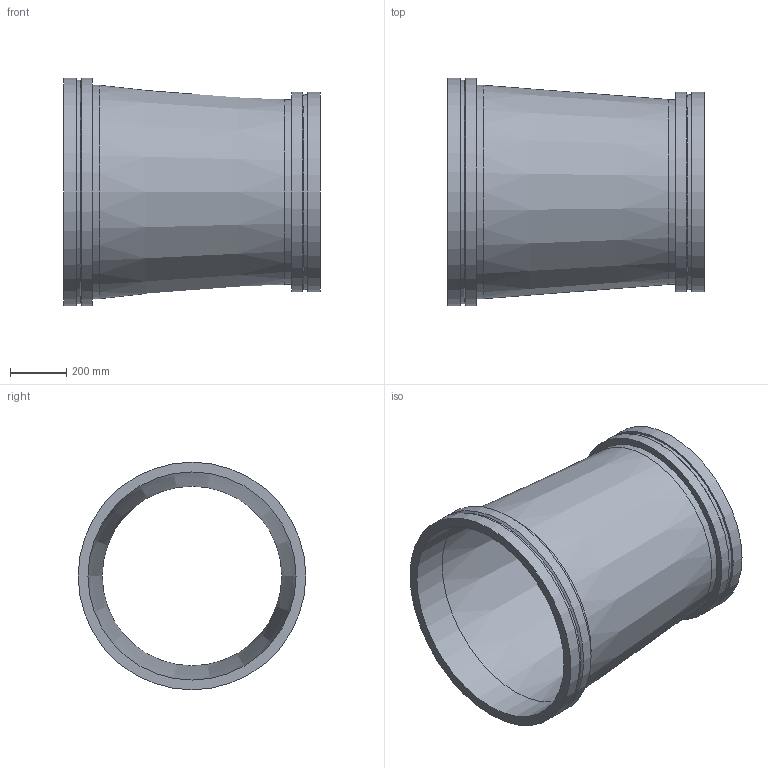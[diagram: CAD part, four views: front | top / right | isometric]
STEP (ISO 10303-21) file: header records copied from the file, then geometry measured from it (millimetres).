
FILE_DESCRIPTION(/* description */ ('VIC REDUCER CONCENTRIC No W50 VR','CAx-IF Rec.Pracs.---Representation and Presentation of Product Manufacturing Information (PMI)---4.0---2014-10-13'),/* implementation_level */ '2;1');
FILE_NAME(/* name */ 'C:\Users\kkamble\AppData\Roaming\Autodesk\ApplicationPlugins\Back Up\Victaulic_Vic-Ring_Reducer Concentric_No W50 VR (AGR)\Victaulic_Vic-Ring_Reducer Concentric_No W50 VR (AGR)_30.0x26.0 (750x650).stp',/* time_stamp */ '2020-09-10T11:46:33+05:00',/* author */ ('cps_temp'),/* organization */ ('Victaulic'),/* preprocessor_version */ 'ST-DEVELOPER v17.2',/* originating_system */ 'Autodesk Inventor 2019',/* authorisation */ '');
FILE_SCHEMA (('AP242_MANAGED_MODEL_BASED_3D_ENGINEERING_MIM_LF { 1 0 10303 442 1 1 4 }'));
Length unit declared in the file: inch
Products named in the file (1): W50 VR-30.0x26.0
Bounding box: 914.4 x 812.8 x 812.8 mm (x, y, z)
Volume: 30571977.4 mm3; surface area: 4398326.2 mm2
Topology: 1 solids, 1 shells, 20 faces, 54 edges, 40 vertices
Faces by surface type: cylinder 10, plane 6, cone 4
Full cylindrical faces by diameter (mm): 641.35 x1, 660.4 x1, 696.722 x1, 711.2 x2, 742.95 x1, 762 x1, 798.322 x1, 812.8 x2
Entity records: 830 total; most frequent: DIRECTION 162, CARTESIAN_POINT 132, ORIENTED_EDGE 108, AXIS2_PLACEMENT_3D 74, EDGE_CURVE 54, CIRCLE 40, VERTEX_POINT 40, EDGE_LOOP 26
